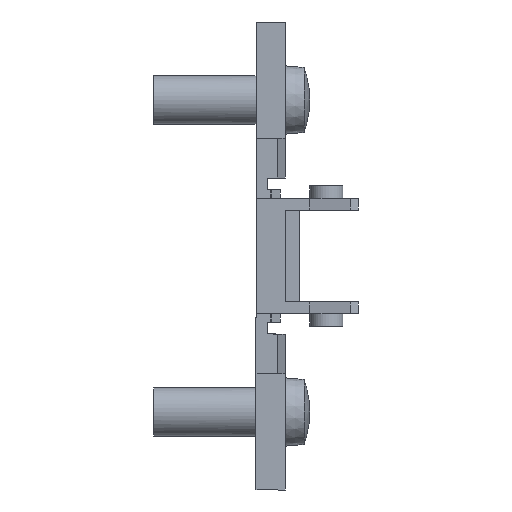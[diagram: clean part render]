
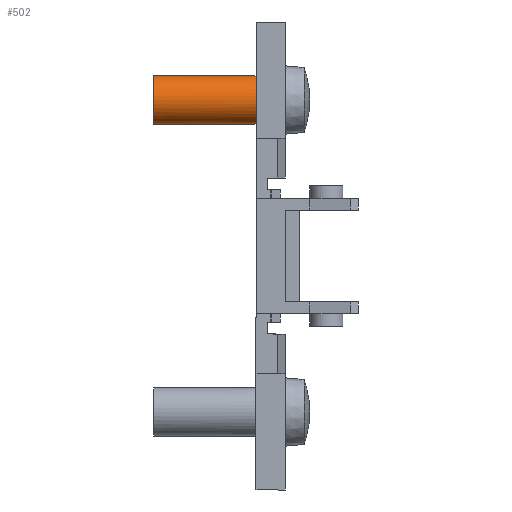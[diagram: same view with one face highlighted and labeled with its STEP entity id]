
A CAD part, front view. The second image highlights one B-rep face of the part: STEP entity #502.
In plain terms, the highlighted cylindrical face has radius 2.5 mm (diameter 5 mm), a partial arc.
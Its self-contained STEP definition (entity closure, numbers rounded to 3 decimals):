
#70 = AXIS2_PLACEMENT_3D ( 'NONE', #1062, #3159, #356 ) ;
#181 = EDGE_CURVE ( 'NONE', #1444, #1758, #436, .T. ) ;
#202 = FACE_OUTER_BOUND ( 'NONE', #1493, .T. ) ;
#261 = ORIENTED_EDGE ( 'NONE', *, *, #2495, .T. ) ;
#315 = CARTESIAN_POINT ( 'NONE',  ( -10.5, 0., 16. ) ) ;
#346 = ORIENTED_EDGE ( 'NONE', *, *, #1279, .F. ) ;
#356 = DIRECTION ( 'NONE',  ( 0., 0., -1. ) ) ;
#397 = DIRECTION ( 'NONE',  ( 1., 0., 0. ) ) ;
#436 = LINE ( 'NONE', #2381, #813 ) ;
#502 = ADVANCED_FACE ( 'NONE', ( #202 ), #2508, .T. ) ;
#610 = ORIENTED_EDGE ( 'NONE', *, *, #2559, .F. ) ;
#612 = DIRECTION ( 'NONE',  ( -1., 0., 0. ) ) ;
#625 = DIRECTION ( 'NONE',  ( -1., 0., 0. ) ) ;
#642 = AXIS2_PLACEMENT_3D ( 'NONE', #1425, #707, #2115 ) ;
#707 = DIRECTION ( 'NONE',  ( -1., 0., 0. ) ) ;
#764 = CIRCLE ( 'NONE', #3724, 2.5 ) ;
#813 = VECTOR ( 'NONE', #612, 1000. ) ;
#1062 = CARTESIAN_POINT ( 'NONE',  ( 0., 0., 16. ) ) ;
#1111 = CARTESIAN_POINT ( 'NONE',  ( 0., 0., 16. ) ) ;
#1195 = CARTESIAN_POINT ( 'NONE',  ( 0., -2.25, 17.09 ) ) ;
#1274 = CARTESIAN_POINT ( 'NONE',  ( 0., 0., 16. ) ) ;
#1279 = EDGE_CURVE ( 'NONE', #3104, #1427, #2635, .T. ) ;
#1340 = EDGE_CURVE ( 'NONE', #2338, #4250, #3394, .T. ) ;
#1425 = CARTESIAN_POINT ( 'NONE',  ( -10.5, 0., 16. ) ) ;
#1427 = VERTEX_POINT ( 'NONE', #4414 ) ;
#1444 = VERTEX_POINT ( 'NONE', #1745 ) ;
#1473 = EDGE_CURVE ( 'NONE', #1444, #3104, #764, .T. ) ;
#1493 = EDGE_LOOP ( 'NONE', ( #2441, #2412, #261, #4097, #610, #346 ) ) ;
#1560 = DIRECTION ( 'NONE',  ( 0., 0., -1. ) ) ;
#1745 = CARTESIAN_POINT ( 'NONE',  ( 0., 0., 18.5 ) ) ;
#1758 = VERTEX_POINT ( 'NONE', #3364 ) ;
#1949 = CIRCLE ( 'NONE', #4360, 2.5 ) ;
#2088 = CARTESIAN_POINT ( 'NONE',  ( -10.5, 0., 13.5 ) ) ;
#2115 = DIRECTION ( 'NONE',  ( 0., 0., -1. ) ) ;
#2338 = VERTEX_POINT ( 'NONE', #4403 ) ;
#2381 = CARTESIAN_POINT ( 'NONE',  ( -10.5, 0., 18.5 ) ) ;
#2412 = ORIENTED_EDGE ( 'NONE', *, *, #181, .T. ) ;
#2441 = ORIENTED_EDGE ( 'NONE', *, *, #1473, .F. ) ;
#2480 = DIRECTION ( 'NONE',  ( 0., 0., -1. ) ) ;
#2495 = EDGE_CURVE ( 'NONE', #1758, #4250, #1949, .T. ) ;
#2508 = CYLINDRICAL_SURFACE ( 'NONE', #642, 2.5 ) ;
#2559 = EDGE_CURVE ( 'NONE', #1427, #2338, #3592, .T. ) ;
#2635 = CIRCLE ( 'NONE', #4324, 2.5 ) ;
#3050 = DIRECTION ( 'NONE',  ( 0., 0., -1. ) ) ;
#3104 = VERTEX_POINT ( 'NONE', #1195 ) ;
#3159 = DIRECTION ( 'NONE',  ( 1., 0., 0. ) ) ;
#3305 = DIRECTION ( 'NONE',  ( 1., 0., 0. ) ) ;
#3364 = CARTESIAN_POINT ( 'NONE',  ( -10.5, 0., 18.5 ) ) ;
#3394 = LINE ( 'NONE', #2088, #3970 ) ;
#3592 = CIRCLE ( 'NONE', #70, 2.5 ) ;
#3724 = AXIS2_PLACEMENT_3D ( 'NONE', #1111, #397, #2480 ) ;
#3751 = DIRECTION ( 'NONE',  ( 1., 0., 0. ) ) ;
#3970 = VECTOR ( 'NONE', #625, 1000. ) ;
#4081 = CARTESIAN_POINT ( 'NONE',  ( -10.5, 0., 13.5 ) ) ;
#4097 = ORIENTED_EDGE ( 'NONE', *, *, #1340, .F. ) ;
#4250 = VERTEX_POINT ( 'NONE', #4081 ) ;
#4324 = AXIS2_PLACEMENT_3D ( 'NONE', #1274, #3305, #1560 ) ;
#4360 = AXIS2_PLACEMENT_3D ( 'NONE', #315, #3751, #3050 ) ;
#4403 = CARTESIAN_POINT ( 'NONE',  ( 0., 0., 13.5 ) ) ;
#4414 = CARTESIAN_POINT ( 'NONE',  ( 0., -2.25, 14.91 ) ) ;
